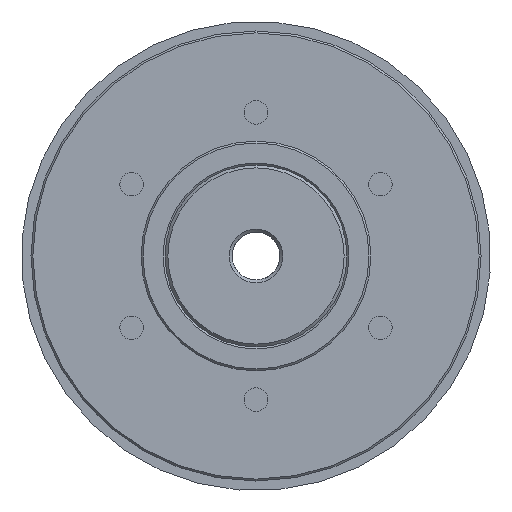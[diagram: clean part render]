
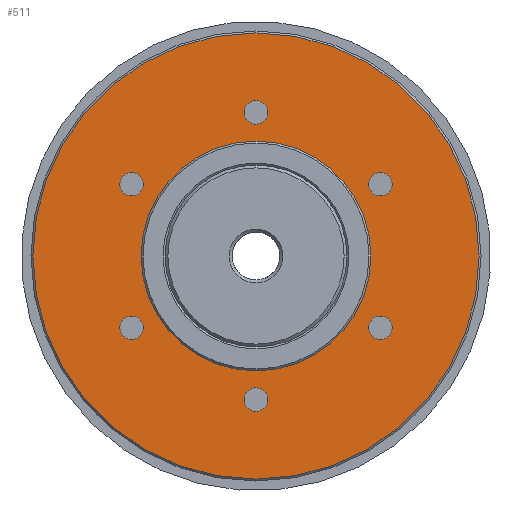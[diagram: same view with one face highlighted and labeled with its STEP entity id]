
A CAD part, left-side view. The second image highlights one B-rep face of the part: STEP entity #511.
In plain terms, the highlighted planar face has unit normal (-1, 0, 0).
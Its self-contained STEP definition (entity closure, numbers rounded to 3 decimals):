
#511 = ADVANCED_FACE( '', ( #1029, #1030, #1031, #1032, #1033, #1034, #1035, #1036 ), #1037, .T. );
#1029 = FACE_BOUND( '', #1580, .T. );
#1030 = FACE_BOUND( '', #1581, .T. );
#1031 = FACE_BOUND( '', #1582, .T. );
#1032 = FACE_BOUND( '', #1583, .T. );
#1033 = FACE_BOUND( '', #1584, .T. );
#1034 = FACE_BOUND( '', #1585, .T. );
#1035 = FACE_OUTER_BOUND( '', #1586, .T. );
#1036 = FACE_BOUND( '', #1587, .T. );
#1037 = PLANE( '', #1588 );
#1580 = EDGE_LOOP( '', ( #2369 ) );
#1581 = EDGE_LOOP( '', ( #2370 ) );
#1582 = EDGE_LOOP( '', ( #2371 ) );
#1583 = EDGE_LOOP( '', ( #2372 ) );
#1584 = EDGE_LOOP( '', ( #2373 ) );
#1585 = EDGE_LOOP( '', ( #2374 ) );
#1586 = EDGE_LOOP( '', ( #2375 ) );
#1587 = EDGE_LOOP( '', ( #2376 ) );
#1588 = AXIS2_PLACEMENT_3D( '', #2377, #2378, #2379 );
#2369 = ORIENTED_EDGE( '', *, *, #2825, .T. );
#2370 = ORIENTED_EDGE( '', *, *, #2749, .T. );
#2371 = ORIENTED_EDGE( '', *, *, #2851, .T. );
#2372 = ORIENTED_EDGE( '', *, *, #2936, .T. );
#2373 = ORIENTED_EDGE( '', *, *, #2948, .T. );
#2374 = ORIENTED_EDGE( '', *, *, #2949, .T. );
#2375 = ORIENTED_EDGE( '', *, *, #2950, .T. );
#2376 = ORIENTED_EDGE( '', *, *, #2951, .F. );
#2377 = CARTESIAN_POINT( '', ( 5.5, 0., 12. ) );
#2378 = DIRECTION( '', ( -1., 0., 0. ) );
#2379 = DIRECTION( '', ( 0., 0., 1. ) );
#2749 = EDGE_CURVE( '', #3118, #3118, #3119, .T. );
#2825 = EDGE_CURVE( '', #3236, #3236, #3237, .T. );
#2851 = EDGE_CURVE( '', #3271, #3271, #3272, .T. );
#2936 = EDGE_CURVE( '', #3401, #3401, #3402, .T. );
#2948 = EDGE_CURVE( '', #3415, #3415, #3416, .T. );
#2949 = EDGE_CURVE( '', #3417, #3417, #3418, .T. );
#2950 = EDGE_CURVE( '', #3419, #3419, #3420, .T. );
#2951 = EDGE_CURVE( '', #3421, #3421, #3422, .T. );
#3118 = VERTEX_POINT( '', #3760 );
#3119 = CIRCLE( '', #3761, 1.23 );
#3236 = VERTEX_POINT( '', #3921 );
#3237 = CIRCLE( '', #3922, 1.23 );
#3271 = VERTEX_POINT( '', #3975 );
#3272 = CIRCLE( '', #3976, 1.23 );
#3401 = VERTEX_POINT( '', #4135 );
#3402 = CIRCLE( '', #4136, 1.23 );
#3415 = VERTEX_POINT( '', #4149 );
#3416 = CIRCLE( '', #4150, 1.23 );
#3417 = VERTEX_POINT( '', #4151 );
#3418 = CIRCLE( '', #4152, 1.23 );
#3419 = VERTEX_POINT( '', #4153 );
#3420 = CIRCLE( '', #4154, 23.3 );
#3421 = VERTEX_POINT( '', #4155 );
#3422 = CIRCLE( '', #4156, 12. );
#3760 = CARTESIAN_POINT( '', ( 5.5, 14.055, -8.115 ) );
#3761 = AXIS2_PLACEMENT_3D( '', #4335, #4336, #4337 );
#3921 = CARTESIAN_POINT( '', ( 5.5, 14.055, 8.115 ) );
#3922 = AXIS2_PLACEMENT_3D( '', #4444, #4445, #4446 );
#3975 = CARTESIAN_POINT( '', ( 5.5, 0., -16.23 ) );
#3976 = AXIS2_PLACEMENT_3D( '', #4469, #4470, #4471 );
#4135 = CARTESIAN_POINT( '', ( 5.5, -14.055, -8.115 ) );
#4136 = AXIS2_PLACEMENT_3D( '', #4604, #4605, #4606 );
#4149 = CARTESIAN_POINT( '', ( 5.5, -14.055, 8.115 ) );
#4150 = AXIS2_PLACEMENT_3D( '', #4613, #4614, #4615 );
#4151 = CARTESIAN_POINT( '', ( 5.5, 0., 16.23 ) );
#4152 = AXIS2_PLACEMENT_3D( '', #4616, #4617, #4618 );
#4153 = CARTESIAN_POINT( '', ( 5.5, 0., 23.3 ) );
#4154 = AXIS2_PLACEMENT_3D( '', #4619, #4620, #4621 );
#4155 = CARTESIAN_POINT( '', ( 5.5, 0., 12. ) );
#4156 = AXIS2_PLACEMENT_3D( '', #4622, #4623, #4624 );
#4335 = CARTESIAN_POINT( '', ( 5.5, 12.99, -7.5 ) );
#4336 = DIRECTION( '', ( 1., 0., 0. ) );
#4337 = DIRECTION( '', ( 0., 0.866, -0.5 ) );
#4444 = CARTESIAN_POINT( '', ( 5.5, 12.99, 7.5 ) );
#4445 = DIRECTION( '', ( 1., 0., 0. ) );
#4446 = DIRECTION( '', ( 0., 0.866, 0.5 ) );
#4469 = CARTESIAN_POINT( '', ( 5.5, 0., -15. ) );
#4470 = DIRECTION( '', ( 1., 0., 0. ) );
#4471 = DIRECTION( '', ( 0., 0., -1. ) );
#4604 = CARTESIAN_POINT( '', ( 5.5, -12.99, -7.5 ) );
#4605 = DIRECTION( '', ( 1., 0., 0. ) );
#4606 = DIRECTION( '', ( 0., -0.866, -0.5 ) );
#4613 = CARTESIAN_POINT( '', ( 5.5, -12.99, 7.5 ) );
#4614 = DIRECTION( '', ( 1., 0., 0. ) );
#4615 = DIRECTION( '', ( 0., -0.866, 0.5 ) );
#4616 = CARTESIAN_POINT( '', ( 5.5, 0., 15. ) );
#4617 = DIRECTION( '', ( 1., 0., 0. ) );
#4618 = DIRECTION( '', ( 0., 0., 1. ) );
#4619 = CARTESIAN_POINT( '', ( 5.5, 0., 0. ) );
#4620 = DIRECTION( '', ( -1., 0., 0. ) );
#4621 = DIRECTION( '', ( 0., 0., 1. ) );
#4622 = CARTESIAN_POINT( '', ( 5.5, 0., 0. ) );
#4623 = DIRECTION( '', ( -1., 0., 0. ) );
#4624 = DIRECTION( '', ( 0., 0., 1. ) );
